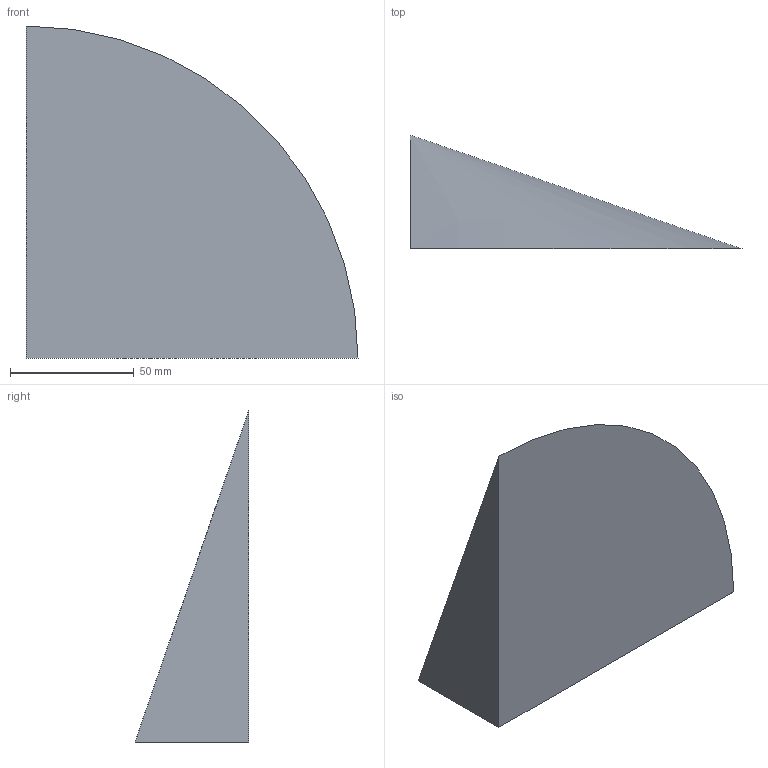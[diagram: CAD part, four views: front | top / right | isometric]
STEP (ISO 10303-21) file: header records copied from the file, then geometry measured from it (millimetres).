
FILE_DESCRIPTION(('CATIA V5 STEP Exchange'),'2;1');
FILE_NAME('C:\_Andres\UNIVERSIDAD\IQS\ASIGNATURAS\DAO\EXF\EXF-16172c\2inicio\Sastre_Cabrerizo_Ej07_v34.stp','2017-03-05T21:18:15+00:00',('none'),('none'),'CATIA Version 5-6 Release 2014 SP1 HF18','CATIA V5 STEP AP203','none');
FILE_SCHEMA(('CONFIG_CONTROL_DESIGN'));
Length unit declared in the file: millimetre
Products named in the file (1): Sastre_Cabrerizo_Ej07_v34
Bounding box: 134 x 46 x 134 mm (x, y, z)
Volume: 216240 mm3; surface area: 35177 mm2
Topology: 1 solids, 1 shells, 4 faces, 7 edges, 4 vertices
Faces by surface type: plane 3, cone 1
Entity records: 131 total; most frequent: CARTESIAN_POINT 15, DIRECTION 14, ORIENTED_EDGE 12, AXIS2_PLACEMENT_3D 6, EDGE_CURVE 6, VECTOR 5, LINE 5, ADVANCED_FACE 4
